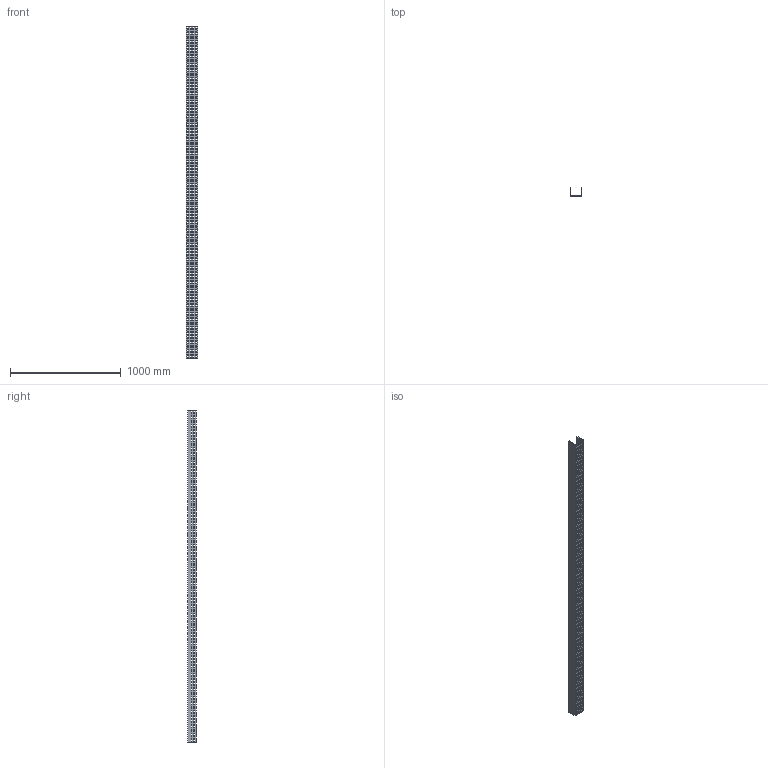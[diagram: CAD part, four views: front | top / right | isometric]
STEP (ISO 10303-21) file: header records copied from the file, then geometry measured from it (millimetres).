
FILE_DESCRIPTION (( 'STEP AP214' ), '1' );
FILE_NAME ('01F3C100.step', '2025-02-21T13:27:22', ( '' ), ( '' ), 'SwSTEP 2.0', 'SolidWorks 2023', '' );
FILE_SCHEMA (( 'AUTOMOTIVE_DESIGN' ));
Length unit declared in the file: millimetre
Products named in the file (1): 01F3C100
Bounding box: 104 x 79 x 3000 mm (x, y, z)
Volume: 2324700 mm3; surface area: 1480209 mm2
Topology: 1 solids, 1 shells, 2314 faces, 6936 edges, 4624 vertices
Faces by surface type: plane 2314
Entity records: 78647 total; most frequent: CARTESIAN_POINT 13875, ORIENTED_EDGE 13872, DIRECTION 11566, LINE 6936, EDGE_CURVE 6936, VECTOR 6936, VERTEX_POINT 4624, EDGE_LOOP 3466
